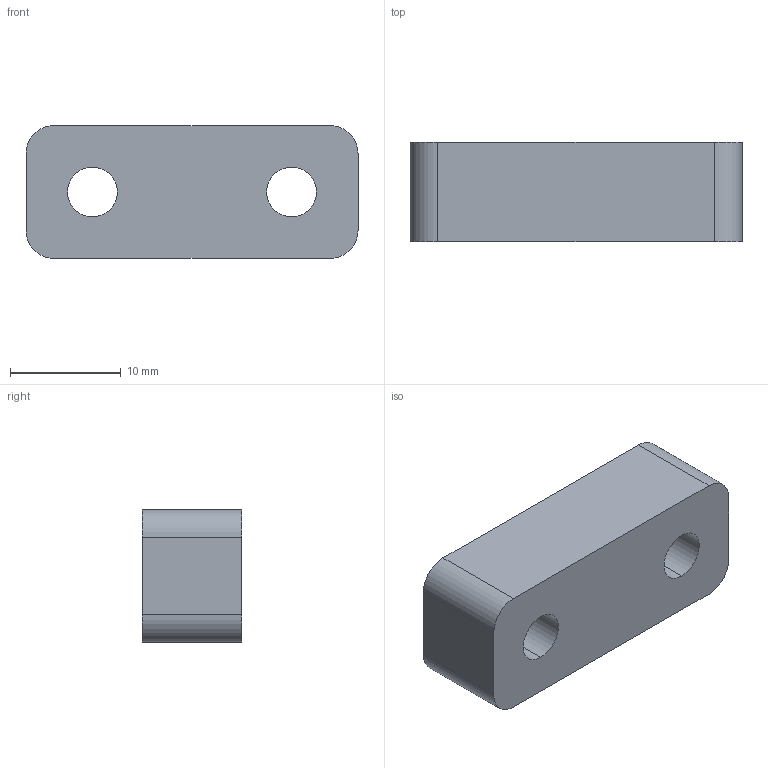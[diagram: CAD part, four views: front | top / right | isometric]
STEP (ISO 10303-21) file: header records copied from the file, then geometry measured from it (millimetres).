
FILE_DESCRIPTION (( 'STEP AP214' ), '1' );
FILE_NAME ('GZ27.11_V1ÏÞÎ»¿é1.STEP', '2021-04-11T11:58:22', ( 'hp' ), ( '' ), 'SwSTEP 2.0', 'SolidWorks 2017', '' );
FILE_SCHEMA (( 'AUTOMOTIVE_DESIGN' ));
Length unit declared in the file: millimetre
Products named in the file (1): GZ27.11_V1癹弇輸1
Bounding box: 30 x 9 x 12 mm (x, y, z)
Volume: 2589.3 mm3; surface area: 1718.7 mm2
Topology: 1 solids, 1 shells, 20 faces, 48 edges, 32 vertices
Faces by surface type: cylinder 12, plane 8
Entity records: 638 total; most frequent: DIRECTION 114, CARTESIAN_POINT 101, ORIENTED_EDGE 96, EDGE_CURVE 48, AXIS2_PLACEMENT_3D 45, VERTEX_POINT 32, EDGE_LOOP 26, VECTOR 24
